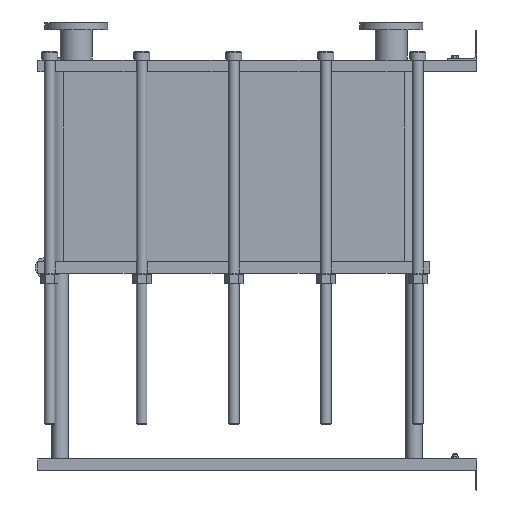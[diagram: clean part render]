
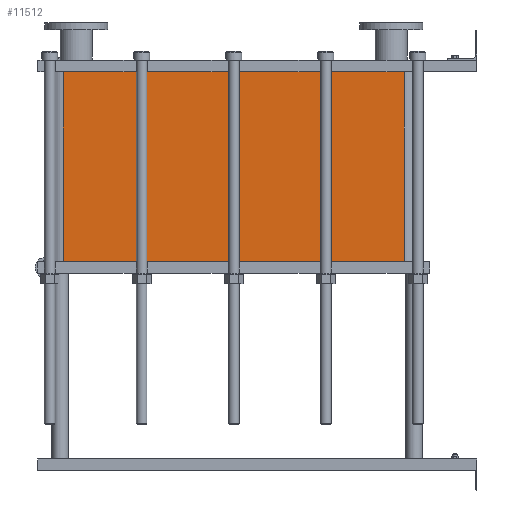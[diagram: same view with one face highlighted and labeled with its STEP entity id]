
A CAD part, left-side view. The second image highlights one B-rep face of the part: STEP entity #11512.
In plain terms, the highlighted planar face has unit normal (-1, 0, 0).
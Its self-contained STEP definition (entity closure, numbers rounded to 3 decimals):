
#1129=LINE('',#23232,#2102);
#1130=LINE('',#23236,#2103);
#1131=LINE('',#23238,#2104);
#1132=LINE('',#23239,#2105);
#2102=VECTOR('',#15887,10.);
#2103=VECTOR('',#15892,10.);
#2104=VECTOR('',#15893,10.);
#2105=VECTOR('',#15894,10.);
#3267=FACE_OUTER_BOUND('',#4093,.T.);
#4093=EDGE_LOOP('',(#10103,#10104,#10105,#10106));
#5642=VERTEX_POINT('',#23229);
#5643=VERTEX_POINT('',#23231);
#5644=VERTEX_POINT('',#23235);
#5645=VERTEX_POINT('',#23237);
#7159=EDGE_CURVE('',#5643,#5642,#1129,.T.);
#7161=EDGE_CURVE('',#5642,#5644,#1130,.T.);
#7162=EDGE_CURVE('',#5645,#5644,#1131,.T.);
#7163=EDGE_CURVE('',#5645,#5643,#1132,.T.);
#10103=ORIENTED_EDGE('',*,*,#7161,.T.);
#10104=ORIENTED_EDGE('',*,*,#7162,.F.);
#10105=ORIENTED_EDGE('',*,*,#7163,.T.);
#10106=ORIENTED_EDGE('',*,*,#7159,.T.);
#10857=PLANE('',#12751);
#11512=ADVANCED_FACE('',(#3267),#10857,.T.);
#12751=AXIS2_PLACEMENT_3D('',#23234,#15890,#15891);
#15887=DIRECTION('',(0.,0.,-1.));
#15890=DIRECTION('center_axis',(-1.,0.,0.));
#15891=DIRECTION('ref_axis',(0.,1.,0.));
#15892=DIRECTION('',(0.,-1.,0.));
#15893=DIRECTION('',(0.,0.,-1.));
#15894=DIRECTION('',(0.,1.,0.));
#23229=CARTESIAN_POINT('',(-200.,1414.,-648.6));
#23231=CARTESIAN_POINT('',(-200.,1414.,0.));
#23232=CARTESIAN_POINT('',(-200.,1414.,0.));
#23234=CARTESIAN_POINT('Origin',(-200.,248.,0.));
#23235=CARTESIAN_POINT('',(-200.,248.,-648.6));
#23236=CARTESIAN_POINT('',(-200.,539.5,-648.6));
#23237=CARTESIAN_POINT('',(-200.,248.,0.));
#23238=CARTESIAN_POINT('',(-200.,248.,0.));
#23239=CARTESIAN_POINT('',(-200.,248.,0.));
